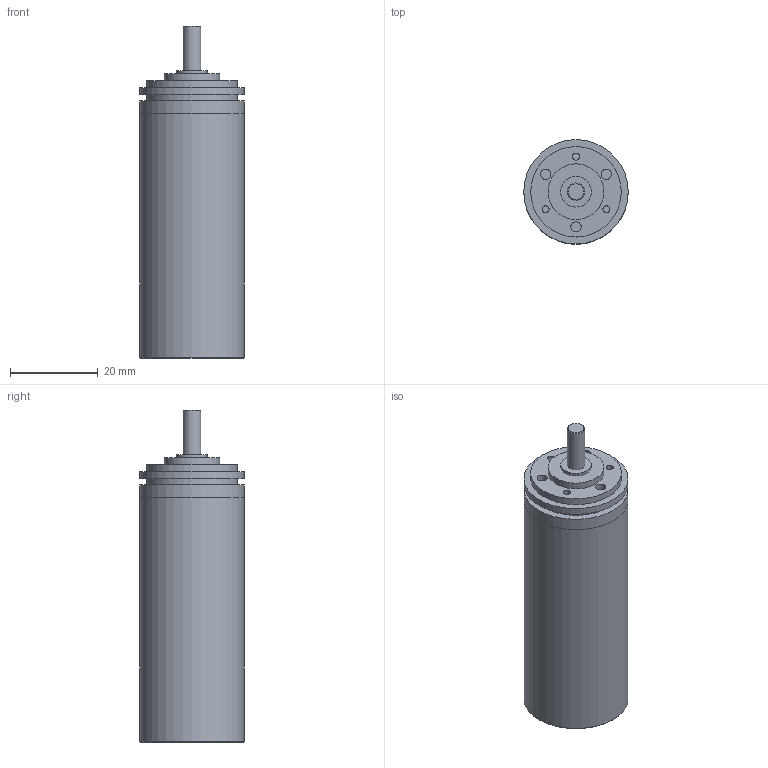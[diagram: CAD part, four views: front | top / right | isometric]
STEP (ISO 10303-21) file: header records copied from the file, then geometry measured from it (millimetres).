
FILE_DESCRIPTION(/* description */ (''),/* implementation_level */ '2;1');
FILE_NAME(/* name */ '22-2K_8.stp',/* time_stamp */ '2016-08-26T11:33:16+02:00',/* author */ ('DR. FRITZ FAULHABER GmbH & Co. KG'),/* organization */ ('DR. FRITZ FAULHABER GmbH & Co. KG'),/* preprocessor_version */ 'ST-DEVELOPER v16',/* originating_system */ 'SIEMENS PLM Software NX 10.0',/* authorisation */ '');
FILE_SCHEMA (('AUTOMOTIVE_DESIGN { 1 0 10303 214 3 1 1 1 }'));
Length unit declared in the file: millimetre
Products named in the file (1): H00000848_A
Bounding box: 23.8 x 23.8 x 75.7 mm (x, y, z)
Volume: 20217.1 mm3; surface area: 7686.5 mm2
Topology: 1 solids, 1 shells, 42 faces, 65 edges, 43 vertices
Faces by surface type: plane 20, cylinder 19, cone 3
Full cylindrical faces by diameter (mm): 1.6 x3, 2.329 x3, 3.5 x1, 4 x1, 4.5 x1, 7 x2, 12.7 x1, 20.63 x2, 22 x1, 23.79 x1, 23.8 x3
Entity records: 858 total; most frequent: DIRECTION 168, CARTESIAN_POINT 125, AXIS2_PLACEMENT_3D 84, EDGE_LOOP 82, ORIENTED_EDGE 82, FACE_BOUND 74, ADVANCED_FACE 42, VERTEX_POINT 41
